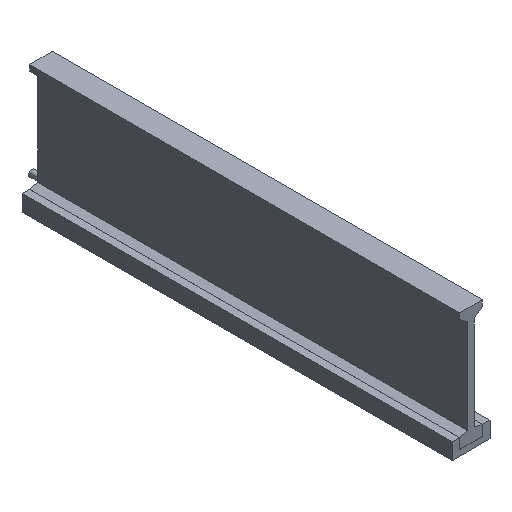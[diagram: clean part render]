
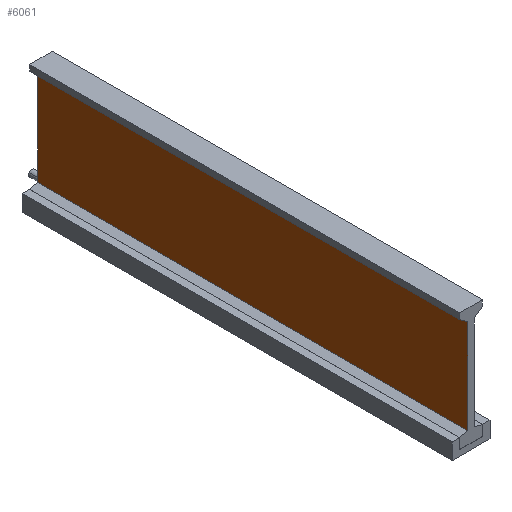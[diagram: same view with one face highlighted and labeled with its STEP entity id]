
A CAD part, isometric view. The second image highlights one B-rep face of the part: STEP entity #6061.
In plain terms, the highlighted planar face has unit normal (-1, 0, 0) as drawn and (1, 0, 0) by its records, which use the part's own axes.
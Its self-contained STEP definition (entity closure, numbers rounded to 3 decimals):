
#58 = CARTESIAN_POINT ( 'NONE',  ( 21.35, 17.11, 625. ) ) ;
#373 = EDGE_CURVE ( 'NONE', #3235, #3665, #3717, .T. ) ;
#397 = CARTESIAN_POINT ( 'NONE',  ( 21.35, 17.11, 625. ) ) ;
#431 = DIRECTION ( 'NONE',  ( 0., 1., 0. ) ) ;
#462 = EDGE_CURVE ( 'NONE', #4828, #3442, #909, .T. ) ;
#465 = DIRECTION ( 'NONE',  ( 0., 1., 0. ) ) ;
#807 = CARTESIAN_POINT ( 'NONE',  ( 21.35, 17.11, 0. ) ) ;
#836 = ORIENTED_EDGE ( 'NONE', *, *, #3457, .T. ) ;
#870 = PLANE ( 'NONE',  #4770 ) ;
#909 = LINE ( 'NONE', #4779, #3061 ) ;
#1470 = ORIENTED_EDGE ( 'NONE', *, *, #6172, .F. ) ;
#1808 = CARTESIAN_POINT ( 'NONE',  ( 21.35, 17.11, 625. ) ) ;
#1864 = VECTOR ( 'NONE', #465, 1000. ) ;
#2309 = LINE ( 'NONE', #1808, #3777 ) ;
#2318 = DIRECTION ( 'NONE',  ( -1., 0., 0. ) ) ;
#2741 = ORIENTED_EDGE ( 'NONE', *, *, #462, .F. ) ;
#2793 = FACE_OUTER_BOUND ( 'NONE', #4355, .T. ) ;
#2865 = LINE ( 'NONE', #4815, #3848 ) ;
#3061 = VECTOR ( 'NONE', #431, 1000. ) ;
#3227 = CARTESIAN_POINT ( 'NONE',  ( 21.35, 154.11, 625. ) ) ;
#3235 = VERTEX_POINT ( 'NONE', #5729 ) ;
#3442 = VERTEX_POINT ( 'NONE', #3227 ) ;
#3457 = EDGE_CURVE ( 'NONE', #4828, #3235, #2309, .T. ) ;
#3665 = VERTEX_POINT ( 'NONE', #4071 ) ;
#3717 = LINE ( 'NONE', #807, #1864 ) ;
#3777 = VECTOR ( 'NONE', #4655, 1000. ) ;
#3848 = VECTOR ( 'NONE', #3853, 1000. ) ;
#3853 = DIRECTION ( 'NONE',  ( 0., 0., -1. ) ) ;
#4071 = CARTESIAN_POINT ( 'NONE',  ( 21.35, 154.11, 0. ) ) ;
#4355 = EDGE_LOOP ( 'NONE', ( #5766, #1470, #2741, #836 ) ) ;
#4655 = DIRECTION ( 'NONE',  ( 0., 0., -1. ) ) ;
#4770 = AXIS2_PLACEMENT_3D ( 'NONE', #397, #2318, #5757 ) ;
#4779 = CARTESIAN_POINT ( 'NONE',  ( 21.35, 17.11, 625. ) ) ;
#4815 = CARTESIAN_POINT ( 'NONE',  ( 21.35, 154.11, 625. ) ) ;
#4828 = VERTEX_POINT ( 'NONE', #58 ) ;
#5729 = CARTESIAN_POINT ( 'NONE',  ( 21.35, 17.11, 0. ) ) ;
#5757 = DIRECTION ( 'NONE',  ( 0., 0., 1. ) ) ;
#5766 = ORIENTED_EDGE ( 'NONE', *, *, #373, .T. ) ;
#6061 = ADVANCED_FACE ( 'NONE', ( #2793 ), #870, .F. ) ;
#6172 = EDGE_CURVE ( 'NONE', #3442, #3665, #2865, .T. ) ;
